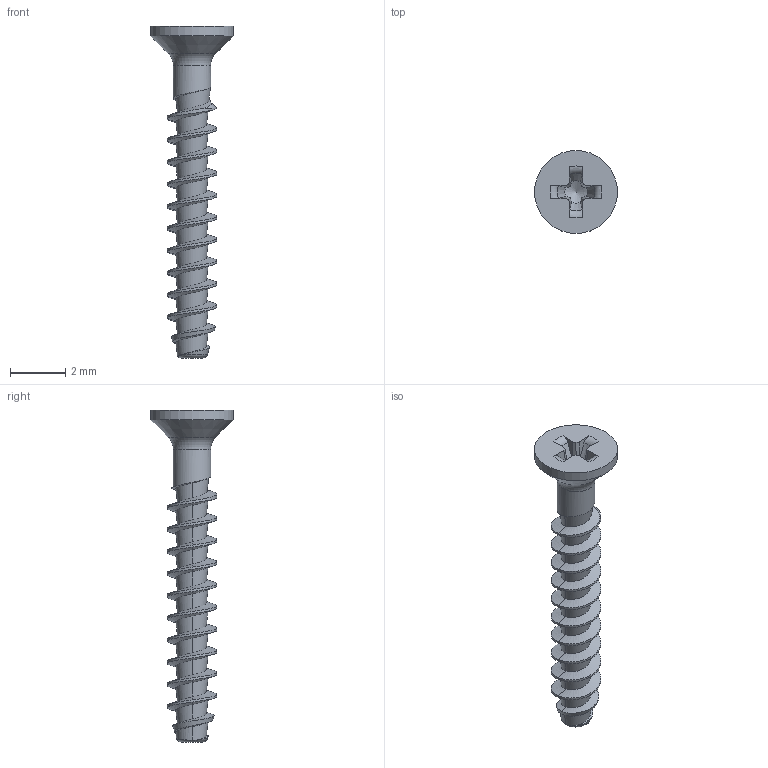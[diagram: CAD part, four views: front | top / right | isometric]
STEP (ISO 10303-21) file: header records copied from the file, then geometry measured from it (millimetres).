
FILE_DESCRIPTION(/* description */ (''),/* implementation_level */ '2;1');
FILE_NAME(/* name */ 'KN1033-STS-18x12-H0.step',/* time_stamp */ '2017-10-16T14:07:20+02:00',/* author */ (''),/* organization */ (''),/* preprocessor_version */ 'ST-DEVELOPER v16',/* originating_system */ 'SIEMENS PLM Software NX 10.0',/* authorisation */ '');
FILE_SCHEMA (('AUTOMOTIVE_DESIGN { 1 0 10303 214 3 1 1 1 }'));
Length unit declared in the file: millimetre
Products named in the file (1): KN1033-STS-18x10-H0
Bounding box: 3 x 3 x 12 mm (x, y, z)
Volume: 19 mm3; surface area: 90.6 mm2
Topology: 1 solids, 1 shells, 74 faces, 190 edges, 118 vertices
Faces by surface type: bspline 38, plane 18, cone 8, torus 6, cylinder 4
Full cylindrical faces by diameter (mm): 1.36 x1, 3 x1
Entity records: 4559 total; most frequent: CARTESIAN_POINT 3107, ORIENTED_EDGE 354, EDGE_CURVE 177, DIRECTION 177, VERTEX_POINT 113, B_SPLINE_CURVE_WITH_KNOTS 93, EDGE_LOOP 79, ADVANCED_FACE 73
